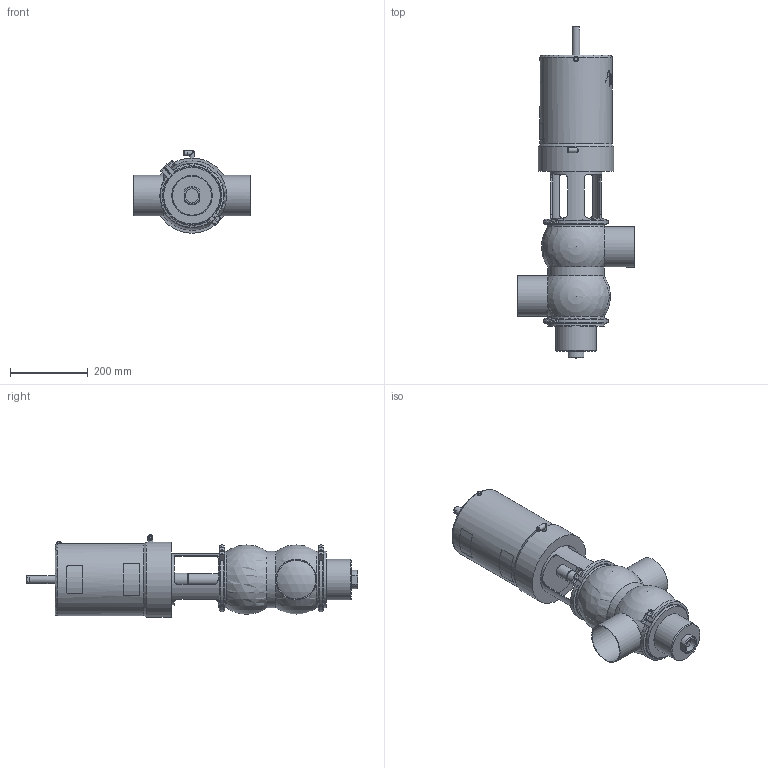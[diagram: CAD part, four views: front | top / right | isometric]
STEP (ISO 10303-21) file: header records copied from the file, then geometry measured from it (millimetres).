
FILE_DESCRIPTION (( 'STEP AP214' ), '1' );
FILE_NAME ('INNOVA S DC-180 W DIN 100_10.251.16.0009.STEP', '2024-08-20T10:24:43', ( '' ), ( '' ), 'SwSTEP 2.0', 'SolidWorks 2023', '' );
FILE_SCHEMA (( 'AUTOMOTIVE_DESIGN' ));
Length unit declared in the file: millimetre
Products named in the file (6): 10.250.15.0002_Type S T3; INNOVA S DC-180 W DIN 100_10.251.16.0009; 10.240.15.0001_DN 100; 10.251.15.0002_DN 100; 10.251.15.0011_DIN 100; 10.251.15.0001_DN 100
Assembly tree (6 placements, depth 2):
  INNOVA S DC-180 W DIN 100_10.251.16.0009
    10.251.15.0001_DN 100
    10.250.15.0002_Type S T3
    10.251.15.0011_DIN 100
    10.240.15.0001_DN 100  x2
    10.251.15.0002_DN 100
Bounding box: 300 x 852 x 211.5 mm (x, y, z)
Volume: 14933661 mm3; surface area: 752741.1 mm2
Topology: 6 solids, 6 shells, 419 faces, 1095 edges, 712 vertices
Faces by surface type: plane 200, cylinder 107, bspline 80, cone 27, sphere 4, torus 1
Full cylindrical faces by diameter (mm): 4.2 x2, 5 x1, 6 x1, 6.15 x1, 8 x4, 8.5 x1, 10.5 x2, 12.5 x6, 20 x1, 30.5 x1, 32 x1, 35 x1, 100 x2, 104 x3, 133 x1, 133.1 x1, 144.5 x3, 145 x1, 156.5 x3, 157 x1, 185 x1, 193 x1
Entity records: 22104 total; most frequent: CARTESIAN_POINT 12096, ORIENTED_EDGE 1718, DIRECTION 1331, EDGE_CURVE 859, VERTEX_POINT 587, AXIS2_PLACEMENT_3D 510, EDGE_LOOP 446, FACE_OUTER_BOUND 399
